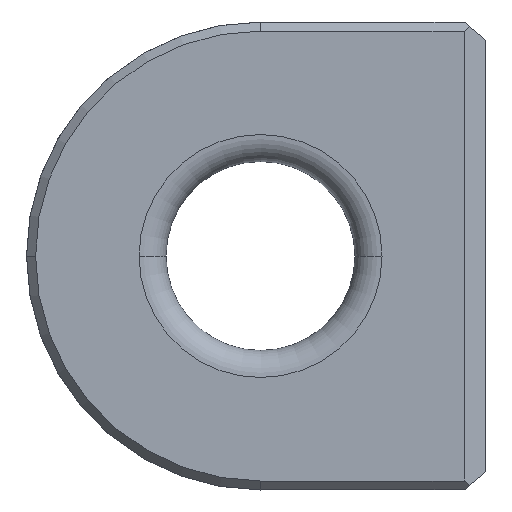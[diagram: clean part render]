
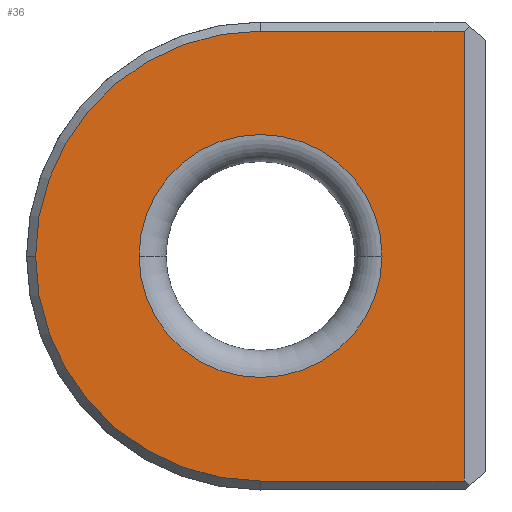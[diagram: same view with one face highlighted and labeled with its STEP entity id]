
A CAD part, front view. The second image highlights one B-rep face of the part: STEP entity #36.
In plain terms, the highlighted planar face has unit normal (0.001, -1, 0).
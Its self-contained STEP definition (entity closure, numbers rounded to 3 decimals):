
#7 = VERTEX_POINT ( 'NONE', #364 ) ;
#10 = CARTESIAN_POINT ( 'NONE',  ( -0.029, 59.707, 0.013 ) ) ;
#16 = CARTESIAN_POINT ( 'NONE',  ( -437.634, 59.553, -274.846 ) ) ;
#26 = EDGE_LOOP ( 'NONE', ( #280, #219, #626, #722, #473 ) ) ;
#36 = ADVANCED_FACE ( 'NONE', ( #671, #661 ), #476, .F. ) ;
#42 = VECTOR ( 'NONE', #602, 1000. ) ;
#49 = EDGE_CURVE ( 'NONE', #769, #588, #63, .T. ) ;
#63 = LINE ( 'NONE', #67, #290 ) ;
#67 = CARTESIAN_POINT ( 'NONE',  ( -428.517, 59.563, -299.846 ) ) ;
#75 = CARTESIAN_POINT ( 'NONE',  ( -451.134, 59.541, -249.846 ) ) ;
#76 = EDGE_CURVE ( 'NONE', #132, #679, #521, .T. ) ;
#110 = DIRECTION ( 'NONE',  ( -1., 0., 0. ) ) ;
#125 = DIRECTION ( 'NONE',  ( 0.414, 0., 0.91 ) ) ;
#132 = VERTEX_POINT ( 'NONE', #75 ) ;
#144 = DIRECTION ( 'NONE',  ( 0., 0., 1. ) ) ;
#219 = ORIENTED_EDGE ( 'NONE', *, *, #475, .T. ) ;
#226 = DIRECTION ( 'NONE',  ( 0., 1., 0. ) ) ;
#239 = VERTEX_POINT ( 'NONE', #461 ) ;
#280 = ORIENTED_EDGE ( 'NONE', *, *, #560, .T. ) ;
#290 = VECTOR ( 'NONE', #306, 1000. ) ;
#306 = DIRECTION ( 'NONE',  ( 1., 0., 0. ) ) ;
#332 = DIRECTION ( 'NONE',  ( 0., -1., 0. ) ) ;
#364 = CARTESIAN_POINT ( 'NONE',  ( -464.634, 59.54, -274.846 ) ) ;
#389 = EDGE_CURVE ( 'NONE', #656, #7, #622, .T. ) ;
#402 = CARTESIAN_POINT ( 'NONE',  ( -451.134, 59.546, -274.846 ) ) ;
#412 = CARTESIAN_POINT ( 'NONE',  ( -451.134, 59.546, -274.846 ) ) ;
#420 = CARTESIAN_POINT ( 'NONE',  ( -451.134, 59.546, -274.846 ) ) ;
#451 = CARTESIAN_POINT ( 'NONE',  ( -428.517, 59.563, -299.846 ) ) ;
#461 = CARTESIAN_POINT ( 'NONE',  ( -428.517, 59.552, -249.846 ) ) ;
#470 = DIRECTION ( 'NONE',  ( -1., 0., 0. ) ) ;
#473 = ORIENTED_EDGE ( 'NONE', *, *, #49, .T. ) ;
#475 = EDGE_CURVE ( 'NONE', #239, #132, #607, .T. ) ;
#476 = PLANE ( 'NONE',  #727 ) ;
#487 = DIRECTION ( 'NONE',  ( 0., 1., 0. ) ) ;
#490 = CIRCLE ( 'NONE', #675, 13.5 ) ;
#492 = CARTESIAN_POINT ( 'NONE',  ( -428.517, 59.552, -248.846 ) ) ;
#502 = LINE ( 'NONE', #492, #694 ) ;
#515 = DIRECTION ( 'NONE',  ( 0., -1., 0. ) ) ;
#517 = CIRCLE ( 'NONE', #593, 25. ) ;
#521 = CIRCLE ( 'NONE', #619, 25. ) ;
#535 = CARTESIAN_POINT ( 'NONE',  ( -451.134, 59.541, -249.846 ) ) ;
#560 = EDGE_CURVE ( 'NONE', #588, #239, #502, .T. ) ;
#588 = VERTEX_POINT ( 'NONE', #451 ) ;
#589 = CARTESIAN_POINT ( 'NONE',  ( -451.134, 59.552, -299.846 ) ) ;
#593 = AXIS2_PLACEMENT_3D ( 'NONE', #756, #515, #470 ) ;
#602 = DIRECTION ( 'NONE',  ( -1., 0., 0. ) ) ;
#607 = LINE ( 'NONE', #535, #42 ) ;
#619 = AXIS2_PLACEMENT_3D ( 'NONE', #420, #332, #628 ) ;
#622 = CIRCLE ( 'NONE', #683, 13.5 ) ;
#626 = ORIENTED_EDGE ( 'NONE', *, *, #76, .T. ) ;
#628 = DIRECTION ( 'NONE',  ( -1., 0., 0. ) ) ;
#656 = VERTEX_POINT ( 'NONE', #16 ) ;
#661 = FACE_OUTER_BOUND ( 'NONE', #26, .T. ) ;
#671 = FACE_BOUND ( 'NONE', #767, .T. ) ;
#675 = AXIS2_PLACEMENT_3D ( 'NONE', #402, #226, #110 ) ;
#678 = EDGE_CURVE ( 'NONE', #679, #769, #517, .T. ) ;
#679 = VERTEX_POINT ( 'NONE', #696 ) ;
#683 = AXIS2_PLACEMENT_3D ( 'NONE', #412, #487, #721 ) ;
#694 = VECTOR ( 'NONE', #144, 1000. ) ;
#696 = CARTESIAN_POINT ( 'NONE',  ( -476.134, 59.534, -274.846 ) ) ;
#699 = ORIENTED_EDGE ( 'NONE', *, *, #725, .T. ) ;
#713 = DIRECTION ( 'NONE',  ( 0., 1., 0. ) ) ;
#721 = DIRECTION ( 'NONE',  ( -1., 0., 0. ) ) ;
#722 = ORIENTED_EDGE ( 'NONE', *, *, #678, .T. ) ;
#725 = EDGE_CURVE ( 'NONE', #7, #656, #490, .T. ) ;
#727 = AXIS2_PLACEMENT_3D ( 'NONE', #10, #713, #125 ) ;
#746 = ORIENTED_EDGE ( 'NONE', *, *, #389, .T. ) ;
#756 = CARTESIAN_POINT ( 'NONE',  ( -451.134, 59.546, -274.846 ) ) ;
#767 = EDGE_LOOP ( 'NONE', ( #699, #746 ) ) ;
#769 = VERTEX_POINT ( 'NONE', #589 ) ;
